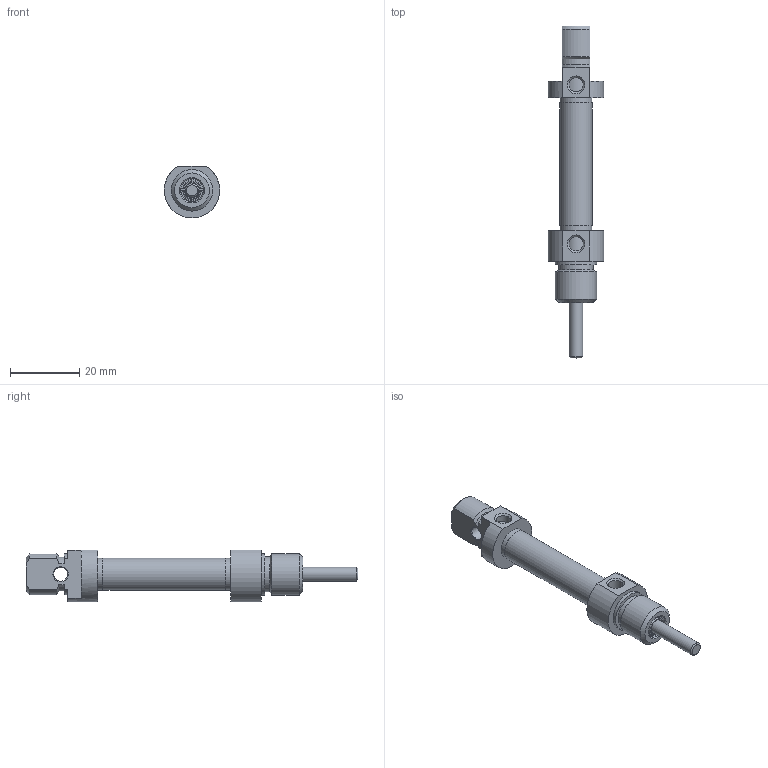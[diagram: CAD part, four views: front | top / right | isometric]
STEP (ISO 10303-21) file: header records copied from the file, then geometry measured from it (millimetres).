
FILE_DESCRIPTION((''),'2;1');
FILE_NAME('T:\Archivio Inventor\- 00 NUOVI STP PER SITO CON STELO CHE SI MUOVE\SERIE O\ODM\ODM008.---.GS.M\ODM008.010.GS.M.stp','2014-02-25T14:17:15',('carlo.corazza'),(''),'Autodesk Inventor 2012','Autodesk Inventor 2012','');
FILE_SCHEMA(('AUTOMOTIVE_DESIGN { 1 0 10303 214 1 1 1 1 }'));
Length unit declared in the file: millimetre
Products named in the file (5): ODM008..GS.M; TP; STELO-010; CORPO-010; TA
Assembly tree (4 placements, depth 2):
  ODM008..GS.M
    TP
    STELO-010
    CORPO-010
    TA
Bounding box: 16 x 96 x 15 mm (x, y, z)
Volume: 6682 mm3; surface area: 5951 mm2
Topology: 4 solids, 4 shells, 90 faces, 180 edges, 114 vertices
Faces by surface type: plane 32, cylinder 29, cone 22, torus 7
Full cylindrical faces by diameter (mm): 3 x1, 4 x2, 4.134 x2, 4.426 x1, 4.7 x1, 6.5 x1, 6.6 x1, 6.7 x1, 8 x1, 8.1 x1, 8.2 x1, 9.2 x2, 9.27 x1, 10 x1, 12 x2
Entity records: 2353 total; most frequent: CARTESIAN_POINT 419, DIRECTION 402, ORIENTED_EDGE 260, AXIS2_PLACEMENT_3D 183, EDGE_LOOP 154, EDGE_CURVE 130, VERTEX_POINT 108, FACE_OUTER_BOUND 90
